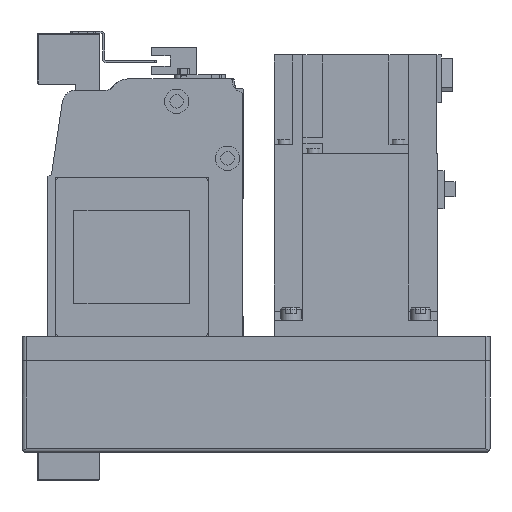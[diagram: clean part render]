
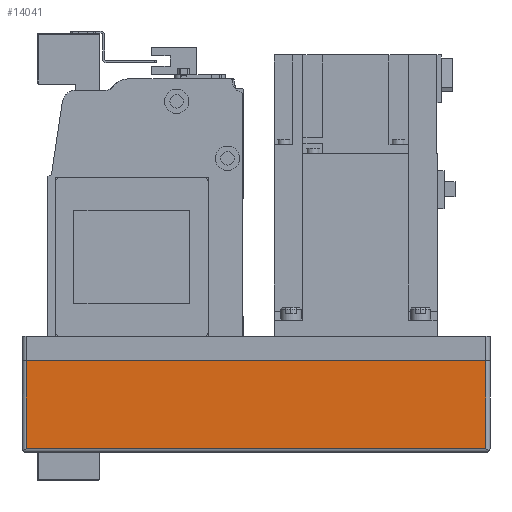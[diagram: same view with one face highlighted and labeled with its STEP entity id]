
A CAD part, left-side view. The second image highlights one B-rep face of the part: STEP entity #14041.
In plain terms, the highlighted planar face has unit normal (-1, 0, 0) as drawn and (0, 1, 0) by its records, which use the part's own axes.
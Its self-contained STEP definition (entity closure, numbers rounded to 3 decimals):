
#2532=ORIENTED_EDGE('',*,*,#5824,.F.);
#2533=ORIENTED_EDGE('',*,*,#5764,.T.);
#2534=ORIENTED_EDGE('',*,*,#5825,.F.);
#2535=ORIENTED_EDGE('',*,*,#5759,.F.);
#5759=EDGE_CURVE('',#7554,#7555,#9024,.T.);
#5764=EDGE_CURVE('',#7560,#7559,#9026,.T.);
#5824=EDGE_CURVE('',#7560,#7554,#9069,.T.);
#5825=EDGE_CURVE('',#7555,#7559,#9070,.T.);
#7554=VERTEX_POINT('',#22000);
#7555=VERTEX_POINT('',#22002);
#7559=VERTEX_POINT('',#22011);
#7560=VERTEX_POINT('',#22013);
#9024=LINE('',#22001,#10337);
#9026=LINE('',#22012,#10339);
#9069=LINE('',#22135,#10382);
#9070=LINE('',#22136,#10383);
#10337=VECTOR('',#17565,1000.);
#10339=VECTOR('',#17575,1000.);
#10382=VECTOR('',#17696,1000.);
#10383=VECTOR('',#17697,1000.);
#11490=EDGE_LOOP('',(#2532,#2533,#2534,#2535));
#12553=FACE_BOUND('',#11490,.T.);
#13448=PLANE('',#15092);
#14041=ADVANCED_FACE('',(#12553),#13448,.T.);
#15092=AXIS2_PLACEMENT_3D('',#22134,#17694,#17695);
#17565=DIRECTION('',(0.,0.,1.));
#17575=DIRECTION('',(0.,0.,1.));
#17694=DIRECTION('',(0.,1.,0.));
#17695=DIRECTION('',(0.,0.,1.));
#17696=DIRECTION('',(1.,0.,0.));
#17697=DIRECTION('',(-1.,0.,0.));
#22000=CARTESIAN_POINT('',(-2.,54.,-55.));
#22001=CARTESIAN_POINT('',(-2.,54.,-57.));
#22002=CARTESIAN_POINT('',(-2.,54.,-12.));
#22011=CARTESIAN_POINT('',(-228.,54.,-12.));
#22012=CARTESIAN_POINT('',(-228.,54.,-57.));
#22013=CARTESIAN_POINT('',(-228.,54.,-55.));
#22134=CARTESIAN_POINT('',(-2.,54.,-57.));
#22135=CARTESIAN_POINT('',(-230.,54.,-55.));
#22136=CARTESIAN_POINT('',(-2.,54.,-12.));
